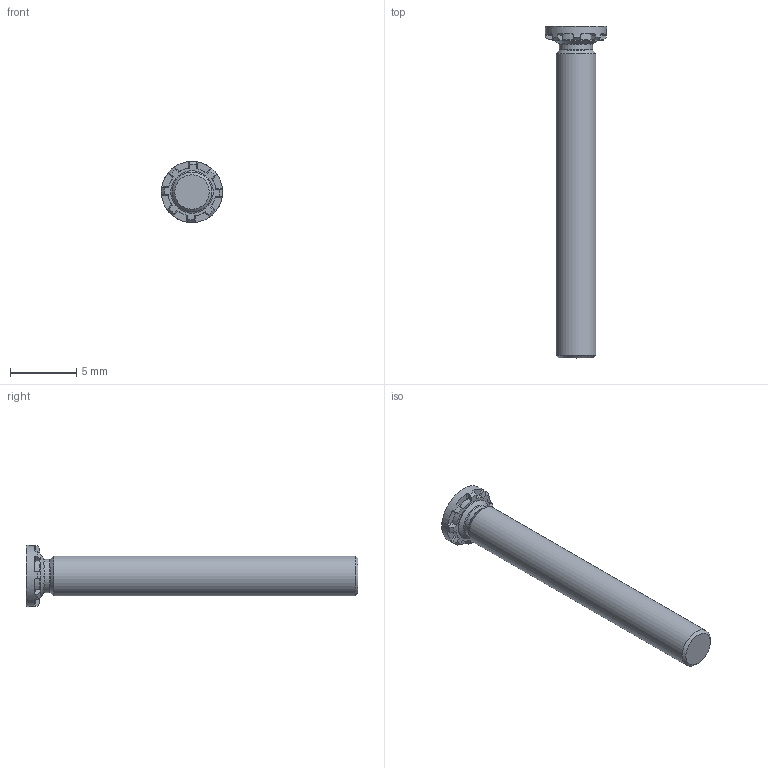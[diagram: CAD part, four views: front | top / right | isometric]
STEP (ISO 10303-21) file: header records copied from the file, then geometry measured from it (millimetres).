
FILE_DESCRIPTION(/* description */ (''),/* implementation_level */ '2;1');
FILE_NAME(/* name */ 'C:\Users\keval.kumar\Desktop\Fastit\Clinch Screw- FH Range\M3\Clinch Screw-FH Range_M3x20.stp',/* time_stamp */ '2024-03-12T11:50:40+05:00',/* author */ ('keval.kumar'),/* organization */ (''),/* preprocessor_version */ 'ST-DEVELOPER v18.1',/* originating_system */ 'Autodesk Inventor 2022',/* authorisation */ '');
FILE_SCHEMA (('AUTOMOTIVE_DESIGN { 1 0 10303 214 3 1 1 }'));
Length unit declared in the file: millimetre
Products named in the file (1): Clinch Screw-FH Range_M3x20
Bounding box: 4.6 x 25 x 4.6 mm (x, y, z)
Volume: 183.1 mm3; surface area: 274.2 mm2
Topology: 1 solids, 1 shells, 68 faces, 193 edges, 128 vertices
Faces by surface type: plane 43, cylinder 12, cone 11, torus 2
Full cylindrical faces by diameter (mm): 2.5 x1, 3 x1, 3.2 x1, 4.6 x1
Entity records: 2278 total; most frequent: CARTESIAN_POINT 422, DIRECTION 405, ORIENTED_EDGE 386, EDGE_CURVE 193, AXIS2_PLACEMENT_3D 159, VERTEX_POINT 128, LINE 87, VECTOR 87
